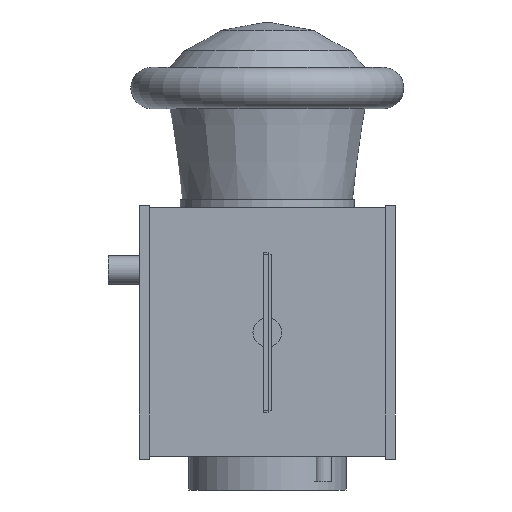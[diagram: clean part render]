
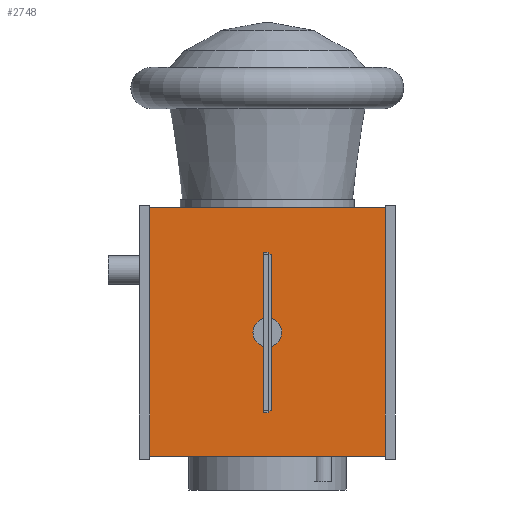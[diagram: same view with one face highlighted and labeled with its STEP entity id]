
A CAD part, left-side view. The second image highlights one B-rep face of the part: STEP entity #2748.
In plain terms, the highlighted planar face has unit normal (-1, 0, 0).
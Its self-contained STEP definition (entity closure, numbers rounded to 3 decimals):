
#2748 = ADVANCED_FACE('',(#2749),#2763,.F.);
#2749 = FACE_BOUND('',#2750,.F.);
#2750 = EDGE_LOOP('',(#2751,#2786,#2814,#2842));
#2751 = ORIENTED_EDGE('',*,*,#2752,.F.);
#2752 = EDGE_CURVE('',#2753,#2755,#2757,.T.);
#2753 = VERTEX_POINT('',#2754);
#2754 = CARTESIAN_POINT('',(-0.296,-0.296,-0.603));
#2755 = VERTEX_POINT('',#2756);
#2756 = CARTESIAN_POINT('',(-0.296,-0.296,0.));
#2757 = SURFACE_CURVE('',#2758,(#2762,#2774),.PCURVE_S1.);
#2758 = LINE('',#2759,#2760);
#2759 = CARTESIAN_POINT('',(-0.296,-0.296,-0.603));
#2760 = VECTOR('',#2761,1.);
#2761 = DIRECTION('',(0.,0.,1.));
#2762 = PCURVE('',#2763,#2768);
#2763 = PLANE('',#2764);
#2764 = AXIS2_PLACEMENT_3D('',#2765,#2766,#2767);
#2765 = CARTESIAN_POINT('',(-0.296,-0.296,-0.603));
#2766 = DIRECTION('',(1.,0.,0.));
#2767 = DIRECTION('',(0.,0.,1.));
#2768 = DEFINITIONAL_REPRESENTATION('',(#2769),#2773);
#2769 = LINE('',#2770,#2771);
#2770 = CARTESIAN_POINT('',(0.,0.));
#2771 = VECTOR('',#2772,1.);
#2772 = DIRECTION('',(1.,0.));
#2773 = ( GEOMETRIC_REPRESENTATION_CONTEXT(2) 
PARAMETRIC_REPRESENTATION_CONTEXT() REPRESENTATION_CONTEXT('2D SPACE',''
  ) );
#2774 = PCURVE('',#2775,#2780);
#2775 = PLANE('',#2776);
#2776 = AXIS2_PLACEMENT_3D('',#2777,#2778,#2779);
#2777 = CARTESIAN_POINT('',(-0.296,-0.296,-0.603));
#2778 = DIRECTION('',(0.,1.,0.));
#2779 = DIRECTION('',(0.,0.,1.));
#2780 = DEFINITIONAL_REPRESENTATION('',(#2781),#2785);
#2781 = LINE('',#2782,#2783);
#2782 = CARTESIAN_POINT('',(0.,0.));
#2783 = VECTOR('',#2784,1.);
#2784 = DIRECTION('',(1.,0.));
#2785 = ( GEOMETRIC_REPRESENTATION_CONTEXT(2) 
PARAMETRIC_REPRESENTATION_CONTEXT() REPRESENTATION_CONTEXT('2D SPACE',''
  ) );
#2786 = ORIENTED_EDGE('',*,*,#2787,.T.);
#2787 = EDGE_CURVE('',#2753,#2788,#2790,.T.);
#2788 = VERTEX_POINT('',#2789);
#2789 = CARTESIAN_POINT('',(-0.296,0.296,-0.603));
#2790 = SURFACE_CURVE('',#2791,(#2795,#2802),.PCURVE_S1.);
#2791 = LINE('',#2792,#2793);
#2792 = CARTESIAN_POINT('',(-0.296,-0.296,-0.603));
#2793 = VECTOR('',#2794,1.);
#2794 = DIRECTION('',(0.,1.,0.));
#2795 = PCURVE('',#2763,#2796);
#2796 = DEFINITIONAL_REPRESENTATION('',(#2797),#2801);
#2797 = LINE('',#2798,#2799);
#2798 = CARTESIAN_POINT('',(0.,0.));
#2799 = VECTOR('',#2800,1.);
#2800 = DIRECTION('',(0.,-1.));
#2801 = ( GEOMETRIC_REPRESENTATION_CONTEXT(2) 
PARAMETRIC_REPRESENTATION_CONTEXT() REPRESENTATION_CONTEXT('2D SPACE',''
  ) );
#2802 = PCURVE('',#2803,#2808);
#2803 = PLANE('',#2804);
#2804 = AXIS2_PLACEMENT_3D('',#2805,#2806,#2807);
#2805 = CARTESIAN_POINT('',(-0.296,-0.296,-0.603));
#2806 = DIRECTION('',(0.,0.,1.));
#2807 = DIRECTION('',(1.,0.,0.));
#2808 = DEFINITIONAL_REPRESENTATION('',(#2809),#2813);
#2809 = LINE('',#2810,#2811);
#2810 = CARTESIAN_POINT('',(0.,0.));
#2811 = VECTOR('',#2812,1.);
#2812 = DIRECTION('',(0.,1.));
#2813 = ( GEOMETRIC_REPRESENTATION_CONTEXT(2) 
PARAMETRIC_REPRESENTATION_CONTEXT() REPRESENTATION_CONTEXT('2D SPACE',''
  ) );
#2814 = ORIENTED_EDGE('',*,*,#2815,.T.);
#2815 = EDGE_CURVE('',#2788,#2816,#2818,.T.);
#2816 = VERTEX_POINT('',#2817);
#2817 = CARTESIAN_POINT('',(-0.296,0.296,0.));
#2818 = SURFACE_CURVE('',#2819,(#2823,#2830),.PCURVE_S1.);
#2819 = LINE('',#2820,#2821);
#2820 = CARTESIAN_POINT('',(-0.296,0.296,-0.603));
#2821 = VECTOR('',#2822,1.);
#2822 = DIRECTION('',(0.,0.,1.));
#2823 = PCURVE('',#2763,#2824);
#2824 = DEFINITIONAL_REPRESENTATION('',(#2825),#2829);
#2825 = LINE('',#2826,#2827);
#2826 = CARTESIAN_POINT('',(0.,-0.591));
#2827 = VECTOR('',#2828,1.);
#2828 = DIRECTION('',(1.,0.));
#2829 = ( GEOMETRIC_REPRESENTATION_CONTEXT(2) 
PARAMETRIC_REPRESENTATION_CONTEXT() REPRESENTATION_CONTEXT('2D SPACE',''
  ) );
#2830 = PCURVE('',#2831,#2836);
#2831 = PLANE('',#2832);
#2832 = AXIS2_PLACEMENT_3D('',#2833,#2834,#2835);
#2833 = CARTESIAN_POINT('',(-0.296,0.296,-0.603));
#2834 = DIRECTION('',(0.,1.,0.));
#2835 = DIRECTION('',(0.,0.,1.));
#2836 = DEFINITIONAL_REPRESENTATION('',(#2837),#2841);
#2837 = LINE('',#2838,#2839);
#2838 = CARTESIAN_POINT('',(0.,0.));
#2839 = VECTOR('',#2840,1.);
#2840 = DIRECTION('',(1.,0.));
#2841 = ( GEOMETRIC_REPRESENTATION_CONTEXT(2) 
PARAMETRIC_REPRESENTATION_CONTEXT() REPRESENTATION_CONTEXT('2D SPACE',''
  ) );
#2842 = ORIENTED_EDGE('',*,*,#2843,.F.);
#2843 = EDGE_CURVE('',#2755,#2816,#2844,.T.);
#2844 = SURFACE_CURVE('',#2845,(#2849,#2856),.PCURVE_S1.);
#2845 = LINE('',#2846,#2847);
#2846 = CARTESIAN_POINT('',(-0.296,-0.296,0.));
#2847 = VECTOR('',#2848,1.);
#2848 = DIRECTION('',(0.,1.,0.));
#2849 = PCURVE('',#2763,#2850);
#2850 = DEFINITIONAL_REPRESENTATION('',(#2851),#2855);
#2851 = LINE('',#2852,#2853);
#2852 = CARTESIAN_POINT('',(0.603,0.));
#2853 = VECTOR('',#2854,1.);
#2854 = DIRECTION('',(0.,-1.));
#2855 = ( GEOMETRIC_REPRESENTATION_CONTEXT(2) 
PARAMETRIC_REPRESENTATION_CONTEXT() REPRESENTATION_CONTEXT('2D SPACE',''
  ) );
#2856 = PCURVE('',#2857,#2862);
#2857 = PLANE('',#2858);
#2858 = AXIS2_PLACEMENT_3D('',#2859,#2860,#2861);
#2859 = CARTESIAN_POINT('',(-0.296,-0.296,0.));
#2860 = DIRECTION('',(0.,0.,1.));
#2861 = DIRECTION('',(1.,0.,0.));
#2862 = DEFINITIONAL_REPRESENTATION('',(#2863),#2867);
#2863 = LINE('',#2864,#2865);
#2864 = CARTESIAN_POINT('',(0.,0.));
#2865 = VECTOR('',#2866,1.);
#2866 = DIRECTION('',(0.,1.));
#2867 = ( GEOMETRIC_REPRESENTATION_CONTEXT(2) 
PARAMETRIC_REPRESENTATION_CONTEXT() REPRESENTATION_CONTEXT('2D SPACE',''
  ) );
